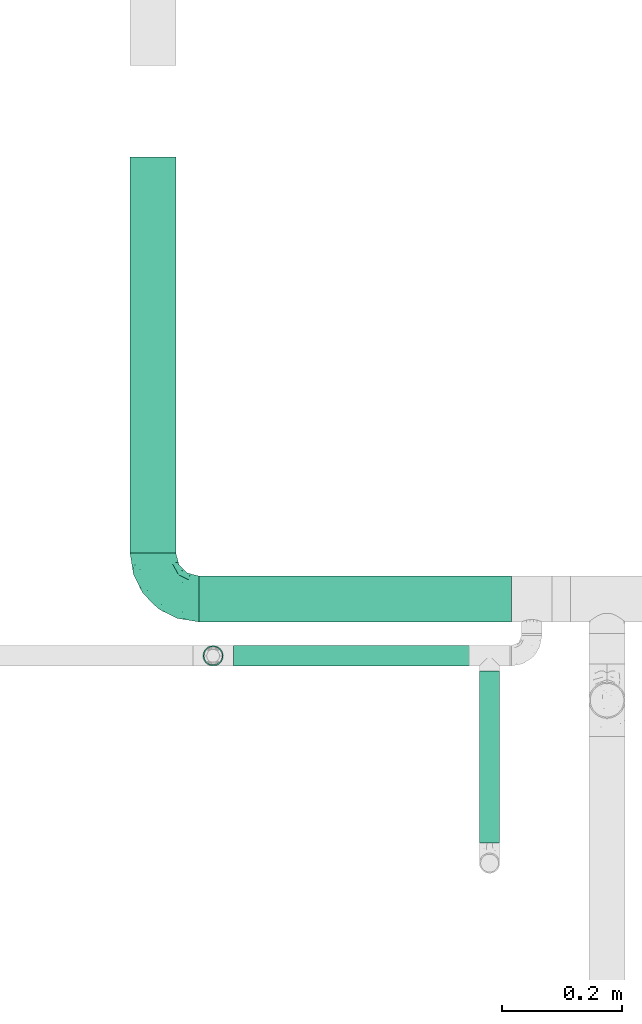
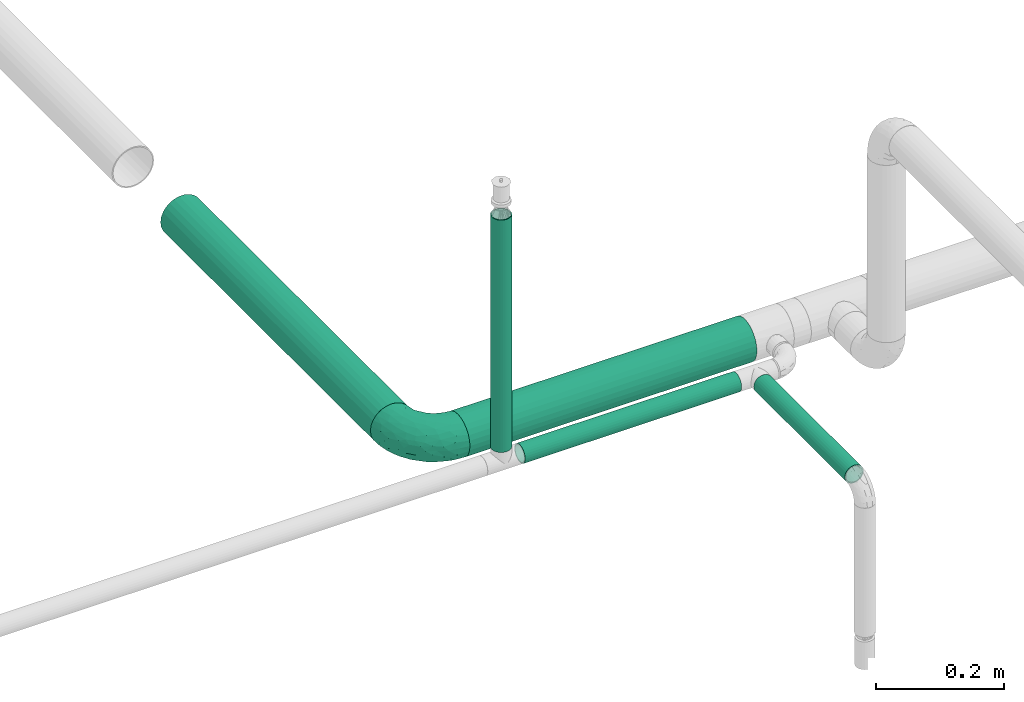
# One storey, part 16 of 157: 5 flow segments, 1 flow fitting.
"""IFC2X3 building model written with IfcOpenShell, lengths in millimetres."""

from ifc_helpers import new_model, entity, si_unit, converted_unit, derived_unit, direction, frame, origin_with_axes, origin_2d_with_axis, place, context, subcontext, project, spatial, hollow_circle, extrude, open_shell, surface_model, source, transform, mapped, type_object, element, save


model = new_model("IFC2X3")

# Units and contexts
model_context = context("Model", 3, precision=0.01, world=frame((0.0, 4.29681676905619e-09, 0.0)), true_north=direction((4.01073788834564e-13, 1.0)))
plan_context = context("Plan", 3, precision=0.01, world=frame((0.0, 4.29681676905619e-09, 0.0)), true_north=direction((4.01073788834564e-13, 1.0)))
body_context = subcontext(model_context, "Body", "Model", "MODEL_VIEW")
ifc_project = project(units=[converted_unit("PLANEANGLEUNIT", "DEGREE", entity("IfcPositiveLengthMeasure", 0.0174532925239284), si_unit("PLANEANGLEUNIT", "RADIAN"), dimensions=[0, 0, 0, 0, 0, 0, 0]), si_unit("AREAUNIT", "SQUARE_METRE"), si_unit("LENGTHUNIT", "METRE", prefix="MILLI"), si_unit("MASSUNIT", "GRAM", prefix="KILO"), si_unit("POWERUNIT", "WATT"), si_unit("PRESSUREUNIT", "PASCAL"), si_unit("FORCEUNIT", "NEWTON", prefix="KILO"), si_unit("ELECTRICCURRENTUNIT", "AMPERE"), si_unit("THERMODYNAMICTEMPERATUREUNIT", "DEGREE_CELSIUS"), si_unit("TIMEUNIT", "SECOND"), si_unit("VOLUMEUNIT", "CUBIC_METRE"), derived_unit("LINEARVELOCITYUNIT", [(si_unit("LENGTHUNIT", "METRE"), 1), (si_unit("TIMEUNIT", "SECOND"), -1)]), derived_unit("VOLUMETRICFLOWRATEUNIT", [(si_unit("VOLUMEUNIT", "CUBIC_METRE"), 1), (si_unit("TIMEUNIT", "SECOND"), -1)]), derived_unit("THERMALTRANSMITTANCEUNIT", [(si_unit("POWERUNIT", "WATT"), 1), (si_unit("THERMODYNAMICTEMPERATUREUNIT", "KELVIN"), -1), (si_unit("AREAUNIT", "SQUARE_METRE"), -1)])], contexts=[model_context, plan_context])

# Site, building, storey
site_placement = place(None, frame((0.0, -4.29681676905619e-09, 0.0), z_axis=(0.0, 0.0, 1.0), x_axis=(1.0, 0.0, 0.0)))
site = spatial("IfcSite", under=ifc_project, at=site_placement, CompositionType="ELEMENT")
building_placement = place(site_placement, frame((0.0, 4.29681676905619e-09, 0.0), z_axis=(0.0, 0.0, 1.0), x_axis=(1.0, 0.0, 0.0)))
building = spatial("IfcBuilding", under=site, at=building_placement, Name="mc-building", CompositionType="ELEMENT")
storey_placement = place(building_placement, frame((0.0, 0.0, 204000.0), z_axis=(0.0, 0.0, 1.0), x_axis=(1.0, 0.0, 0.0)))
storey = spatial("IfcBuildingStorey", under=building, at=storey_placement, Name="Nivå D", CompositionType="ELEMENT", Elevation=204000.0)

# Flow fitting
pipe_fitting_type = type_object("IfcPipeFittingType", Name="magi_pipe_fe_elbow_short_001", PredefinedType="BEND")
shared_shape_1 = source(origin_with_axes(), body_context, "Body", "SurfaceModel", [
    surface_model("IfcShellBasedSurfaceModel", [(-76.2, 19.05, -32.99557), (-76.2, 9.86101, -36.80177), (-76.2, 0.0, -38.1), (-76.2, 26.94077, -26.94077), (-76.2, 36.80177, -9.86101), (-76.2, 32.99557, -19.05), (-76.2, -26.94077, -26.94077), (-76.2, -36.80177, -9.86101), (-76.2, -19.05, -32.99557), (-76.2, -9.86101, -36.80177), (-76.2, -32.99557, -19.05), (-76.2, -38.1, 0.0), (-76.2, -36.80177, 9.86101), (-76.2, 26.94077, 26.94077), (-76.2, 36.80177, 9.86101), (-76.2, 32.99557, 19.05), (-76.2, 9.86101, 36.80177), (-76.2, 19.05, 32.99557), (-76.2, 0.0, 38.1), (-76.2, -32.99557, 19.05), (-76.2, -26.94077, 26.94077), (-76.2, -9.86101, 36.80177), (-76.2, -19.05, 32.99557), (-76.2, 38.1, 0.0), (0.0, 76.2, -38.1), (-9.86101, 76.2, -36.80177), (-19.05, 76.2, -32.99557), (-26.94077, 76.2, -26.94077), (-32.99557, 76.2, -19.05), (-36.80177, 76.2, -9.86101), (26.94077, 76.2, -26.94077), (36.80177, 76.2, -9.86101), (9.86101, 76.2, -36.80177), (19.05, 76.2, -32.99557), (32.99557, 76.2, -19.05), (36.80177, 76.2, 9.86101), (38.1, 76.2, 0.0), (-36.80177, 76.2, 9.86101), (-26.94077, 76.2, 26.94077), (-32.99557, 76.2, 19.05), (-19.05, 76.2, 32.99557), (-9.86101, 76.2, 36.80177), (0.0, 76.2, 38.1), (26.94077, 76.2, 26.94077), (32.99557, 76.2, 19.05), (9.86101, 76.2, 36.80177), (19.05, 76.2, 32.99557), (-38.1, 76.2, 0.0), (-51.47253, -33.41495, 11.97429), (-55.87921, -29.59735, 21.38675), (-40.87936, -32.50576, 0.0), (-57.46182, -35.13216, 0.0), (-9.7569, -13.15819, 14.69187), (-2.65186, -10.17769, 8.01257), (2.20082, -2.20082, 15.78668), (-58.2046, -5.04721, 37.4484), (-53.35237, 5.84022, 38.03506), (13.01533, 9.30417, 14.3119), (23.26567, 31.00373, 18.95093), (8.92292, 13.82363, 24.31711), (-37.93212, -0.34191, 36.92855), (-55.73356, -14.37507, 34.26516), (-29.5907, -8.99996, 31.84562), (-48.87429, -21.76577, 28.30344), (-34.13735, -29.20196, 7.83838), (-24.94775, -24.3882, 0.0), (-13.82363, -8.92292, 24.31711), (-6.80575, 6.80575, 31.14998), (-37.24299, 60.80967, 16.55959), (-31.82754, 59.31737, 25.03043), (-14.22204, 65.71998, 35.68746), (-5.22176, 56.99222, 38.00642), (-58.73143, 14.94265, 35.9909), (-9.94517, 25.51838, 37.4103), (-18.93111, 6.98952, 35.57772), (-3.89226, 20.58438, 35.01344), (-65.91802, 23.07271, 31.04479), (-13.24152, 37.4675, 38.03164), (-28.22122, 28.22122, 37.17425), (-22.68668, 16.64938, 37.90374), (-60.23482, 40.58212, 8.37688), (-60.8286, 37.23683, 16.55705), (-47.30619, 47.30619, 14.2421), (-59.55922, 31.76102, 25.00381), (21.76577, 48.87429, 28.30344), (-39.51357, 50.50487, 21.56421), (14.37507, 55.73356, 34.26516), (29.59735, 55.87921, 21.38675), (33.41495, 51.47253, 11.97429), (-9.01615, -16.27064, 0.0), (-18.50075, -20.95742, 9.87146), (5.04721, 58.2046, 37.4484), (-41.86713, 16.32002, 37.41817), (-37.38612, 9.33613, 38.08374), (24.3882, 24.94775, 0.0), (29.20196, 34.13735, 7.83838), (20.95742, 18.50075, 9.87146), (35.13216, 57.46182, 0.0), (-40.50473, 25.85184, 35.24027), (-31.00373, -23.26567, 18.95093), (-27.62233, 49.24446, 32.02197), (-23.27638, 63.88751, 31.20285), (-40.10509, 61.46399, 8.17366), (-47.75011, 49.97248, 6.70535), (17.55292, 30.69115, 25.82241), (8.99996, 29.5907, 31.84562), (-43.20443, 57.15, 0.0), (-35.27088, 40.23417, 31.3068), (-52.46543, 25.86294, 32.08413), (-0.58232, 0.58231, 22.50977), (-21.74145, 39.43998, 36.62577), (-30.35377, 36.8865, 34.66668), (-16.47755, 51.62643, 36.28492), (-40.16133, 42.54966, 26.98796), (-48.93373, 40.93898, 21.24545), (0.34191, 37.93212, 36.92855), (-30.54899, -16.70018, 26.56572), (10.38979, 2.76708, 7.59679), (32.50576, 40.87936, 0.0), (16.27064, 9.01615, 0.0), (-57.15, 43.20443, 0.0), (3.62725, -3.62725, 0.0), (-56.18403, 32.81229, -25.37784), (-60.79374, 37.24818, -16.56172), (-31.12583, -9.61531, -31.96506), (-33.08389, -0.47526, -36.23756), (-15.30809, -0.63756, -31.219), (-60.31522, 4.8175, -37.976), (-55.58208, -34.10815, -12.42093), (-47.87166, -28.25416, -20.6363), (-36.35476, -28.57081, -12.78243), (-55.4317, 15.55274, -36.12913), (-41.97308, 9.00674, -38.09177), (-32.8123, 56.18403, -25.37784), (-61.68117, 39.97816, -8.33686), (-23.91371, 59.81378, -31.51803), (-15.55274, 55.4317, -36.12913), (-48.48008, 48.48008, -9.09668), (22.76239, 55.12076, -28.76608), (13.14871, 48.24989, -33.88525), (15.02018, 64.34702, -34.67535), (-7.42295, -13.4022, -10.03386), (-7.53093, -9.8797, -17.36177), (4.09889, -3.23385, -10.05311), (-22.23209, 20.60173, -38.07837), (-36.11879, 22.54399, -36.96599), (-59.81378, 23.91371, -31.51803), (-64.14494, -30.32973, -22.13621), (-37.06617, 43.2809, -28.69704), (-35.21221, 35.21221, -33.45314), (-46.56802, 32.18433, -30.26847), (3.32253, -0.70027, -16.3296), (-55.12076, -22.76239, -28.76608), (28.25416, 47.87166, -20.6363), (34.10815, 55.58208, -12.42093), (28.57081, 36.35476, -12.78243), (-64.34702, -15.02018, -34.67535), (4.80394, 56.13349, -37.40338), (-24.08639, -18.54476, -20.78452), (-28.44745, -15.54194, -26.65272), (-13.81153, -9.41447, -23.82138), (-41.58053, -17.39667, -29.91543), (-48.24989, -13.14871, -33.88525), (-56.1335, -4.80394, -37.40338), (-28.5499, 46.87201, -32.27447), (-39.97816, 61.68117, -8.33686), (-4.8175, 60.31522, -37.976), (-13.45022, 13.45022, -35.97664), (0.47526, 33.08389, -36.23756), (1.60394, 17.89715, -31.77365), (-37.24818, 60.79374, -16.56172), (-45.75928, 45.75928, -18.77942), (30.32973, 64.14494, -22.13621), (22.08018, 30.6107, -20.46174), (12.28189, 14.44402, -21.13272), (15.54194, 28.44745, -26.65272), (7.87454, 32.5264, -33.28409), (-9.00674, 41.97308, -38.09177), (-46.32128, 24.51975, -34.33978), (-22.71812, 37.0764, -36.7817), (-0.36118, 0.36118, -22.07635), (-17.64772, -21.30183, -6.55407), (19.53658, 18.92928, -14.18962), (21.30183, 17.64772, -6.55407), (4.4885, 11.61303, -26.72553), (-18.92929, -19.53658, -14.18962)], [open_shell([[[0, 1, 2]], [[3, 0, 2]], [[4, 5, 3]], [[6, 3, 2]], [[4, 3, 7]], [[8, 6, 9]], [[6, 2, 9]], [[10, 7, 6]], [[6, 7, 3]], [[11, 12, 7]], [[12, 4, 7]], [[13, 14, 4]], [[15, 14, 13]], [[16, 17, 13]], [[4, 12, 13]], [[13, 18, 16]], [[19, 20, 12]], [[21, 12, 20]], [[22, 21, 20]], [[21, 13, 12]], [[21, 18, 13]], [[23, 4, 14]], [[24, 25, 26]], [[24, 26, 27]], [[27, 28, 29]], [[24, 27, 30]], [[31, 27, 29]], [[32, 30, 33]], [[32, 24, 30]], [[30, 31, 34]], [[27, 31, 30]], [[31, 35, 36]], [[31, 29, 35]], [[29, 37, 38]], [[38, 37, 39]], [[38, 40, 41]], [[29, 38, 35]], [[42, 38, 41]], [[35, 43, 44]], [[43, 35, 45]], [[43, 45, 46]], [[35, 38, 45]], [[38, 42, 45]], [[37, 29, 47]], [[48, 49, 19]], [[50, 48, 51]], [[52, 53, 54]], [[12, 48, 19]], [[12, 51, 48]], [[18, 55, 56]], [[19, 49, 20]], [[57, 58, 59]], [[60, 61, 62]], [[63, 22, 20]], [[63, 61, 22]], [[64, 50, 65]], [[62, 66, 67]], [[39, 68, 69]], [[41, 70, 71]], [[16, 72, 17]], [[73, 74, 75]], [[17, 76, 13]], [[21, 55, 18]], [[77, 78, 79]], [[80, 81, 82]], [[15, 83, 81]], [[84, 43, 46]], [[23, 14, 80]], [[14, 15, 81]], [[68, 85, 69]], [[83, 15, 13]], [[18, 56, 16]], [[46, 86, 84]], [[13, 76, 83]], [[87, 58, 88]], [[39, 37, 68]], [[89, 90, 65]], [[42, 91, 45]], [[65, 90, 64]], [[42, 41, 71]], [[92, 93, 79]], [[88, 35, 44]], [[44, 43, 87]], [[87, 88, 44]], [[94, 95, 96]], [[88, 97, 35]], [[98, 72, 92]], [[49, 99, 63]], [[69, 100, 101]], [[82, 102, 103]], [[104, 105, 59]], [[106, 102, 47]], [[98, 107, 108]], [[102, 82, 68]], [[86, 46, 45]], [[69, 38, 39]], [[109, 54, 57]], [[110, 100, 111]], [[22, 61, 21]], [[101, 40, 38]], [[70, 41, 40]], [[112, 77, 71]], [[84, 86, 105]], [[96, 95, 58]], [[100, 69, 113]], [[72, 16, 56]], [[108, 113, 83]], [[81, 114, 82]], [[112, 110, 77]], [[91, 71, 115]], [[62, 61, 63]], [[55, 61, 60]], [[116, 99, 66]], [[74, 62, 67]], [[91, 86, 45]], [[105, 86, 115]], [[75, 105, 115]], [[109, 67, 66]], [[59, 105, 67]], [[48, 64, 99]], [[99, 49, 48]], [[63, 20, 49]], [[43, 84, 87]], [[58, 87, 84]], [[92, 72, 56]], [[76, 72, 108]], [[102, 68, 37]], [[82, 114, 85]], [[98, 111, 107]], [[112, 70, 101]], [[114, 83, 113]], [[82, 103, 80]], [[92, 79, 78]], [[115, 71, 77]], [[74, 79, 60]], [[77, 79, 73]], [[71, 91, 42]], [[86, 91, 115]], [[61, 55, 21]], [[56, 55, 60]], [[57, 54, 117]], [[104, 59, 58]], [[116, 66, 62]], [[52, 99, 90]], [[12, 11, 51]], [[97, 88, 118]], [[97, 36, 35]], [[53, 90, 89]], [[90, 53, 52]], [[94, 96, 119]], [[88, 95, 118]], [[117, 54, 53]], [[92, 56, 93]], [[98, 92, 78]], [[111, 98, 78]], [[72, 98, 108]], [[110, 111, 78]], [[107, 111, 100]], [[47, 102, 37]], [[102, 106, 103]], [[106, 120, 103]], [[103, 120, 80]], [[23, 80, 120]], [[14, 81, 80]], [[56, 60, 93]], [[60, 79, 93]], [[117, 121, 119]], [[121, 117, 53]], [[53, 89, 121]], [[119, 96, 117]], [[117, 96, 57]], [[77, 110, 78]], [[100, 110, 112]], [[83, 114, 81]], [[85, 114, 113]], [[69, 85, 113]], [[82, 85, 68]], [[109, 52, 54]], [[99, 52, 66]], [[69, 101, 38]], [[112, 101, 100]], [[100, 113, 107]], [[108, 107, 113]], [[62, 74, 60]], [[75, 74, 67]], [[105, 75, 67]], [[73, 75, 115]], [[77, 73, 115]], [[74, 73, 79]], [[99, 64, 90]], [[50, 64, 48]], [[118, 95, 94]], [[58, 95, 88]], [[58, 57, 96]], [[109, 57, 59]], [[72, 76, 17]], [[83, 76, 108]], [[101, 70, 40]], [[71, 70, 112]], [[58, 84, 104]], [[105, 104, 84]], [[67, 109, 59]], [[52, 109, 66]], [[62, 63, 116]], [[99, 116, 63]], [[122, 5, 123]], [[124, 125, 126]], [[2, 1, 127]], [[128, 129, 130]], [[127, 131, 132]], [[28, 27, 133]], [[120, 134, 23]], [[135, 26, 136]], [[123, 134, 137]], [[138, 139, 140]], [[122, 3, 5]], [[141, 142, 143]], [[144, 132, 145]], [[131, 0, 146]], [[128, 10, 147]], [[148, 149, 150]], [[128, 51, 7]], [[142, 151, 143]], [[152, 6, 8]], [[153, 154, 155]], [[156, 152, 8]], [[32, 157, 24]], [[158, 159, 160]], [[147, 10, 6]], [[129, 152, 161]], [[156, 8, 9]], [[162, 163, 125]], [[154, 34, 31]], [[120, 106, 137]], [[149, 148, 164]], [[47, 29, 165]], [[163, 9, 2]], [[5, 4, 123]], [[25, 166, 136]], [[167, 168, 169]], [[170, 133, 171]], [[25, 24, 166]], [[33, 30, 138]], [[157, 32, 140]], [[29, 28, 170]], [[30, 34, 172]], [[26, 135, 27]], [[132, 131, 145]], [[32, 33, 140]], [[173, 174, 175]], [[169, 168, 176]], [[25, 136, 26]], [[175, 138, 173]], [[168, 177, 157]], [[163, 162, 156]], [[153, 172, 154]], [[10, 128, 7]], [[154, 97, 118]], [[131, 178, 145]], [[0, 3, 146]], [[175, 139, 138]], [[155, 118, 94]], [[131, 1, 0]], [[146, 178, 131]], [[170, 137, 165]], [[149, 179, 145]], [[171, 133, 148]], [[160, 180, 142]], [[65, 181, 89]], [[170, 165, 29]], [[137, 171, 123]], [[172, 138, 30]], [[138, 153, 173]], [[168, 157, 139]], [[166, 157, 177]], [[176, 175, 169]], [[168, 167, 144]], [[154, 31, 97]], [[155, 182, 173]], [[162, 124, 161]], [[147, 152, 129]], [[127, 163, 2]], [[132, 144, 125]], [[132, 125, 163]], [[125, 167, 126]], [[129, 158, 130]], [[31, 36, 97]], [[143, 182, 183]], [[169, 126, 167]], [[3, 122, 146]], [[178, 150, 149]], [[136, 179, 164]], [[133, 27, 135]], [[123, 4, 134]], [[122, 123, 171]], [[133, 170, 28]], [[137, 170, 171]], [[184, 175, 174]], [[180, 160, 126]], [[126, 169, 184]], [[126, 159, 124]], [[51, 128, 50]], [[51, 11, 7]], [[131, 127, 1]], [[163, 127, 132]], [[157, 166, 24]], [[136, 166, 177]], [[164, 179, 149]], [[144, 167, 125]], [[179, 144, 145]], [[168, 144, 177]], [[136, 177, 179]], [[144, 179, 177]], [[141, 121, 89]], [[89, 181, 141]], [[154, 118, 155]], [[183, 155, 94]], [[143, 183, 119]], [[119, 183, 94]], [[155, 183, 182]], [[181, 130, 185]], [[50, 128, 130]], [[130, 181, 65]], [[50, 130, 65]], [[141, 181, 185]], [[142, 141, 185]], [[143, 121, 141]], [[158, 160, 142]], [[142, 180, 151]], [[158, 142, 185]], [[126, 160, 159]], [[130, 158, 185]], [[129, 159, 158]], [[23, 134, 4]], [[120, 137, 134]], [[137, 106, 165]], [[47, 165, 106]], [[174, 151, 180]], [[182, 143, 151]], [[150, 146, 122]], [[149, 145, 178]], [[146, 150, 178]], [[122, 171, 148]], [[148, 150, 122]], [[164, 133, 135]], [[133, 164, 148]], [[164, 135, 136]], [[138, 140, 33]], [[157, 140, 139]], [[154, 172, 34]], [[138, 172, 153]], [[163, 156, 9]], [[152, 156, 162]], [[152, 147, 6]], [[128, 147, 129]], [[155, 173, 153]], [[174, 173, 182]], [[151, 174, 182]], [[174, 180, 184]], [[126, 184, 180]], [[175, 184, 169]], [[168, 139, 176]], [[175, 176, 139]], [[161, 124, 159]], [[125, 124, 162]], [[129, 161, 159]], [[162, 161, 152]], [[143, 119, 121]]])]),
])
flow_fitting_placement = place(storey_placement, frame((523940.35581, 414039.35389, 2690.0), z_axis=(0.0, 0.0, 1.0), x_axis=(0.0, -1.0, 0.0)))
element("IfcFlowFitting", 1, at=flow_fitting_placement, inside=storey, type_object=pipe_fitting_type, Name="magi_pipe_fe_elbow_short_001", context=body_context, shape_type="MappedRepresentation", body=[
    mapped(shared_shape_1, transform((0.0, 0.0, 0.0), scale=1.0)),
])

# Flow segments
pipe_segment_type = type_object("IfcPipeSegmentType", Name="Stålrør normaltykke", PredefinedType="RIGIDSEGMENT")
shared_shape_2 = source(origin_with_axes(), body_context, "Body", "SweptSolid", [
    extrude(hollow_circle(Radius=16.9, WallThickness=2.0, at=origin_2d_with_axis()), frame((0.0, 0.0, 0.0), z_axis=(1.0, 0.0, 0.0), x_axis=(0.0, 1.0, 0.0)), (0.0, 0.0, 1.0), 444.8),
])
flow_segment_1_placement = place(storey_placement, frame((524040.35, 413944.735, 3160.14799999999), z_axis=(0.0, 1.0, 0.0), x_axis=(0.0, 0.0, -1.0)))
element("IfcFlowSegment", 2, at=flow_segment_1_placement, inside=storey, type_object=pipe_segment_type, Name="Stålrør normaltykke", context=body_context, shape_type="MappedRepresentation", body=[
    mapped(shared_shape_2, transform((0.0, 0.0, 0.0), scale=1.0)),
])
shared_shape_3 = source(origin_with_axes(), body_context, "Body", "SweptSolid", [
    extrude(hollow_circle(Radius=38.0, WallThickness=2.0, at=origin_2d_with_axis()), frame((0.0, 0.0, 0.0), z_axis=(1.0, 0.0, 0.0), x_axis=(0.0, 1.0, 0.0)), (0.0, 0.0, 1.0), 519.8),
])
flow_segment_2_placement = place(storey_placement, frame((524016.55581, 414039.35389, 2690.0), z_axis=(0.0, 0.0, 1.0), x_axis=(1.0, 0.0, 0.0)))
element("IfcFlowSegment", 3, at=flow_segment_2_placement, inside=storey, type_object=pipe_segment_type, Name="Stålrør normaltykke", context=body_context, shape_type="MappedRepresentation", body=[
    mapped(shared_shape_3, transform((0.0, 0.0, 0.0), scale=1.0)),
])
shared_shape_4 = source(origin_with_axes(), body_context, "Body", "SweptSolid", [
    extrude(hollow_circle(Radius=16.9, WallThickness=2.0, at=origin_2d_with_axis()), frame((0.0, 0.0, 0.0), z_axis=(1.0, 0.0, 0.0), x_axis=(0.0, 1.0, 0.0)), (0.0, 0.0, 1.0), 285.6),
])
flow_segment_3_placement = place(storey_placement, frame((524500.0, 413919.385, 2690.0), z_axis=(0.0, 0.0, 1.0), x_axis=(0.0, -1.0, 0.0)))
element("IfcFlowSegment", 4, at=flow_segment_3_placement, inside=storey, type_object=pipe_segment_type, Name="Stålrør normaltykke", context=body_context, shape_type="MappedRepresentation", body=[
    mapped(shared_shape_4, transform((0.0, 0.0, 0.0), scale=1.0)),
])
shared_shape_5 = source(origin_with_axes(), body_context, "Body", "SweptSolid", [
    extrude(hollow_circle(Radius=16.9, WallThickness=2.0, at=origin_2d_with_axis()), frame((0.0, 0.0, 0.0), z_axis=(1.0, 0.0, 0.0), x_axis=(0.0, 1.0, 0.0)), (0.0, 0.0, 1.0), 392.1),
])
flow_segment_4_placement = place(storey_placement, frame((524074.15, 413944.735, 2690.0), z_axis=(0.0, 0.0, 1.0), x_axis=(1.0, 0.0, 0.0)))
element("IfcFlowSegment", 5, at=flow_segment_4_placement, inside=storey, type_object=pipe_segment_type, Name="Stålrør normaltykke", context=body_context, shape_type="MappedRepresentation", body=[
    mapped(shared_shape_5, transform((0.0, 0.0, 0.0), scale=1.0)),
])
shared_shape_6 = source(origin_with_axes(), body_context, "Body", "SweptSolid", [
    extrude(hollow_circle(Radius=38.0, WallThickness=2.0, at=origin_2d_with_axis()), frame((0.0, 0.0, 0.0), z_axis=(1.0, 0.0, 0.0), x_axis=(0.0, 1.0, 0.0)), (0.0, 0.0, 1.0), 658.3),
])
flow_segment_5_placement = place(storey_placement, frame((523940.35581, 414115.55389, 2690.0), z_axis=(0.0, 0.0, 1.0), x_axis=(0.0, 1.0, 0.0)))
element("IfcFlowSegment", 6, at=flow_segment_5_placement, inside=storey, type_object=pipe_segment_type, Name="Stålrør normaltykke", context=body_context, shape_type="MappedRepresentation", body=[
    mapped(shared_shape_6, transform((0.0, 0.0, 0.0), scale=1.0)),
])

save(model, "model.ifc")
